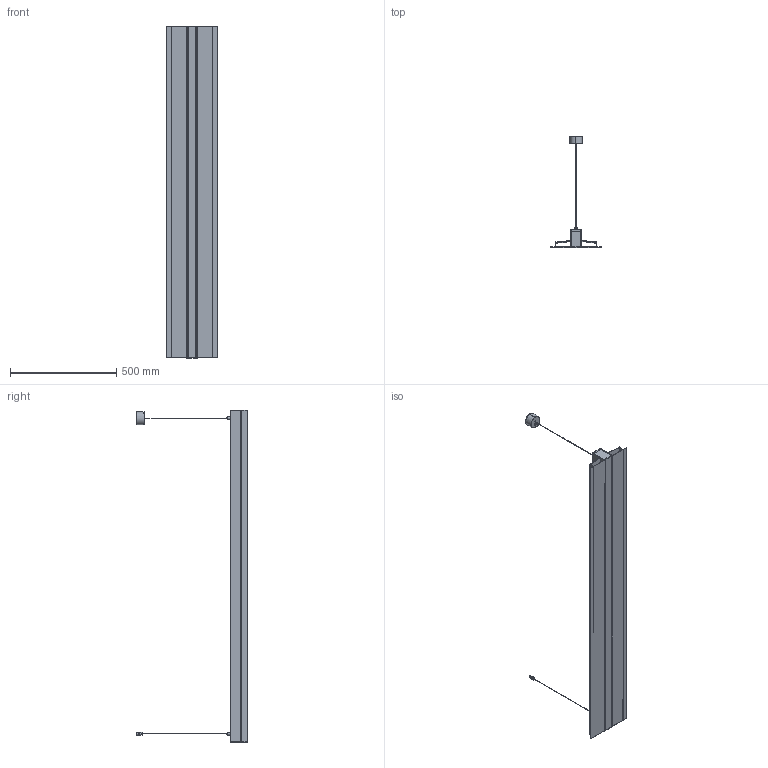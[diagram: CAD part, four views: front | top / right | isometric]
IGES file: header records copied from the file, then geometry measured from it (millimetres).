
Start section: SolidWorks IGES file using analytic representation for surfaces
Global section: file name: C:\Users\JoãoSantos\Desktop\02_3D.2D\01_2020\02_Linear\12_MGB\01_MGB_PendantIndirect\MGB_PENDANT_INDIRECT_1560.IGS; native system: SolidWorks 2020; preprocessor: SolidWorks 2020; author: JoãoSantos; date: 201022.164320; units: millimetre
Bounding box: 236.5 x 523.5 x 1560.4 mm (x, y, z)
Surface area: 2073009.4 mm2 (no closed solid volume)
Topology: 0 solids, 0 shells, 246 faces, 2736 edges, 2736 vertices
Faces by surface type: bspline 172, revolution 74
